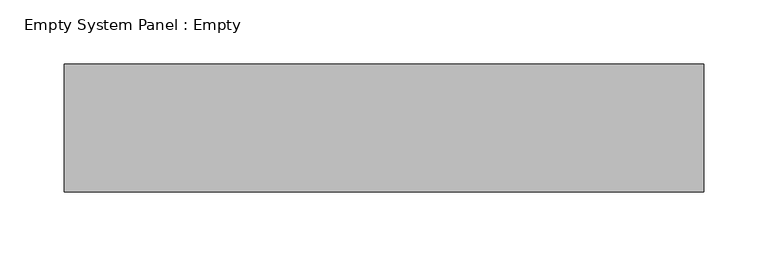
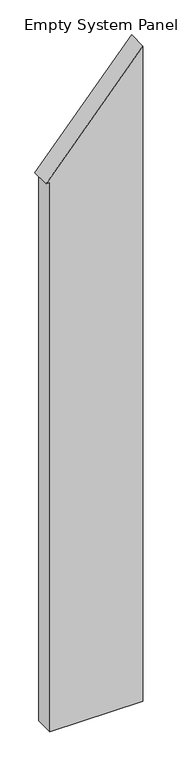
"""IFC4 building model written with IfcOpenShell, lengths in millimetres: plate geometry, Empty System Panel : Empty."""

from ifc_helpers import new_model, si_unit, frame, origin, place, context, project, spatial, polyline, outline, extrude, source, transform, mapped, element, save


def empty_system_panel_empty_6966fd93(model_context):
    return source(origin(), model_context, "Body", "SweptSolid", [
        extrude(outline(polyline([(0.0, -229.7473037), (0.0, 249.7473037), (3575.3549214, 249.7473037), (2998.7035941, -249.7473037), (2998.7035941, -229.7473037), (0.0, -229.7473037)])), frame((0.0, -50.0, 0.0), z_axis=(0.0, 1.0, 0.0), x_axis=(0.0, 0.0, 1.0)), (0.0, 0.0, 1.0), 100.0),
    ])


if __name__ == "__main__":
    model = new_model("IFC4")
    model_context = context("Model", 3, world=origin())
    ifc_project = project(units=[si_unit("LENGTHUNIT", "METRE", prefix="MILLI")], contexts=[model_context])
    site = spatial("IfcSite", under=ifc_project)
    building = spatial("IfcBuilding", under=site)
    placement = place(None, origin())
    empty_system_panel_empty_shape = empty_system_panel_empty_6966fd93(model_context)
    element("IfcPlate", 1, ObjectType="Empty System Panel : Empty", at=placement, inside=building, context=model_context, shape_type="MappedRepresentation", body=[
        mapped(empty_system_panel_empty_shape, transform((0.0, 0.0, 0.0), x_axis=(1.0, 0.0, 0.0), y_axis=(0.0, 1.0, 0.0), z_axis=(0.0, 0.0, 1.0))),
    ])
    save(model, "model.ifc")
